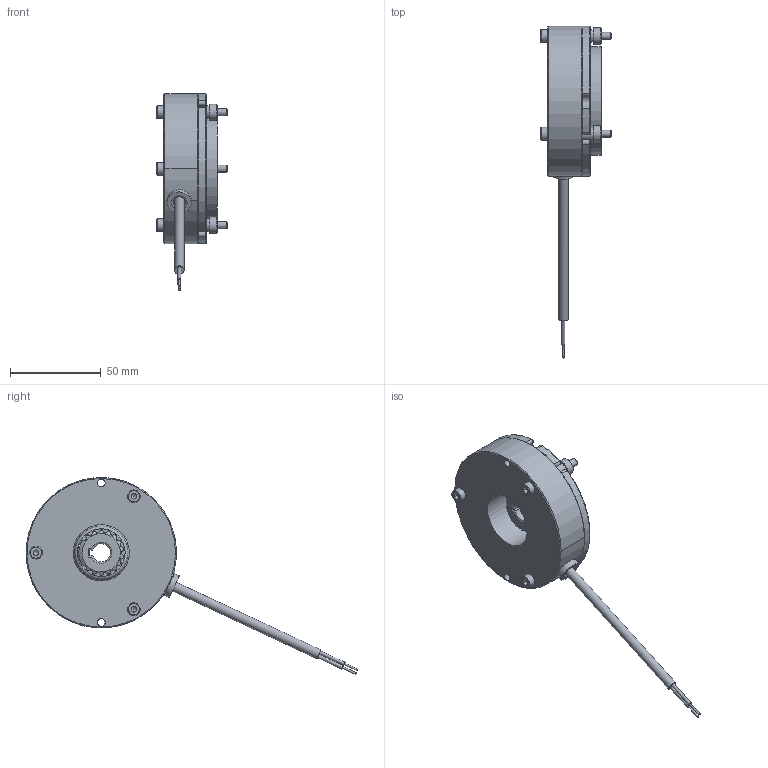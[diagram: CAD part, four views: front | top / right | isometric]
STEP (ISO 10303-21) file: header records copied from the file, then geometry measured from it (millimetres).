
FILE_DESCRIPTION(/* description */ (''),/* implementation_level */ '2;1');
FILE_NAME(/* name */ 'C:\SapWorkDir\Inventor\IP1\ConvertTempPath\5029473_IPT_000.ipt.stp',/* time_stamp */ '2021-04-20T13:44:21+02:00',/* author */ ('WOELK'),/* organization */ (''),/* preprocessor_version */ 'ST-DEVELOPER v17',/* originating_system */ 'Autodesk Inventor 2018',/* authorisation */ '');
FILE_SCHEMA (('AUTOMOTIVE_DESIGN { 1 0 10303 214 3 1 1 }'));
Length unit declared in the file: millimetre
Products named in the file (1): 5029473
Bounding box: 39 x 183.2 x 108.71 mm (x, y, z)
Volume: 131093.2 mm3; surface area: 39769.9 mm2
Topology: 2 solids, 2 shells, 397 faces, 1278 edges, 857 vertices
Faces by surface type: cylinder 171, plane 135, bspline 31, torus 31, cone 29
Full cylindrical faces by diameter (mm): 1 x2, 1.85 x2, 4 x3, 4.15 x3, 4.2 x5, 5.3 x1, 5.5 x1, 6.188 x3, 6.6 x1, 6.7 x1, 7 x6, 7.3 x3, 9 x3, 13.2 x1, 29.4 x1, 31 x2, 60 x1
Entity records: 18480 total; most frequent: CARTESIAN_POINT 6655, ORIENTED_EDGE 2548, DIRECTION 2321, EDGE_CURVE 1274, AXIS2_PLACEMENT_3D 934, VERTEX_POINT 857, CIRCLE 567, LINE 453
